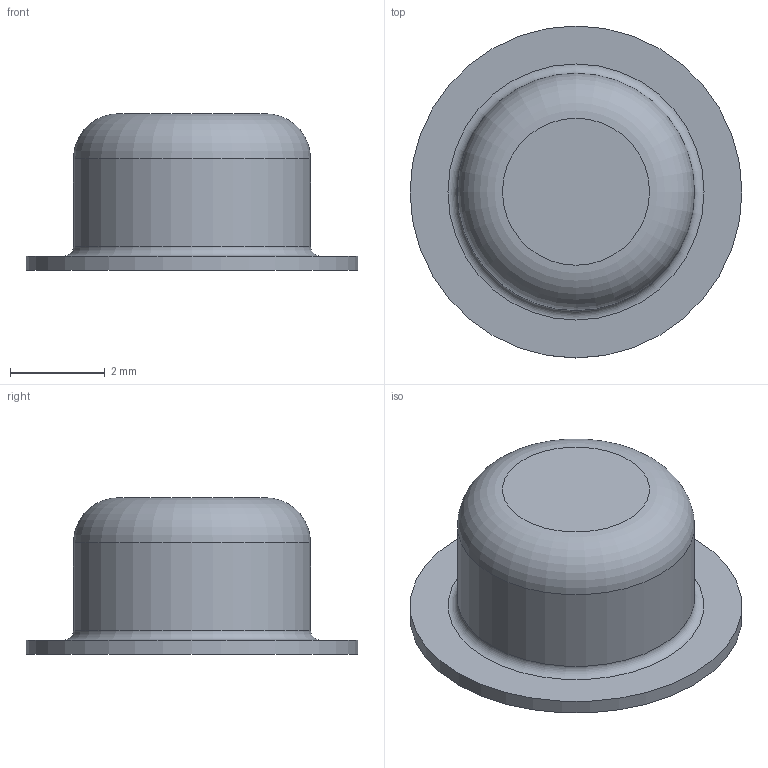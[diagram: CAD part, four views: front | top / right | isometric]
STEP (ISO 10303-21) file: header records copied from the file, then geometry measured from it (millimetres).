
FILE_DESCRIPTION(/* description */ (''),/* implementation_level */ '2;1');
FILE_NAME(/* name */ 'C:\Users\HP\Desktop\knopf bec platine.stp',/* time_stamp */ '2025-02-26T17:48:05+01:00',/* author */ ('HP'),/* organization */ (''),/* preprocessor_version */ 'ST-DEVELOPER v18.1',/* originating_system */ 'Autodesk Inventor 2021',/* authorisation */ '');
FILE_SCHEMA (('AUTOMOTIVE_DESIGN { 1 0 10303 214 3 1 1 }'));
Length unit declared in the file: millimetre
Products named in the file (1): knopf bec platine
Bounding box: 7 x 7 x 3.3 mm (x, y, z)
Volume: 61.8 mm3; surface area: 128.9 mm2
Topology: 1 solids, 1 shells, 10 faces, 21 edges, 15 vertices
Faces by surface type: plane 4, cylinder 3, torus 2, cone 1
Full cylindrical faces by diameter (mm): 3 x1, 5 x1, 7 x1
Entity records: 327 total; most frequent: DIRECTION 60, CARTESIAN_POINT 47, ORIENTED_EDGE 42, AXIS2_PLACEMENT_3D 28, EDGE_CURVE 21, CIRCLE 17, VERTEX_POINT 15, EDGE_LOOP 12
